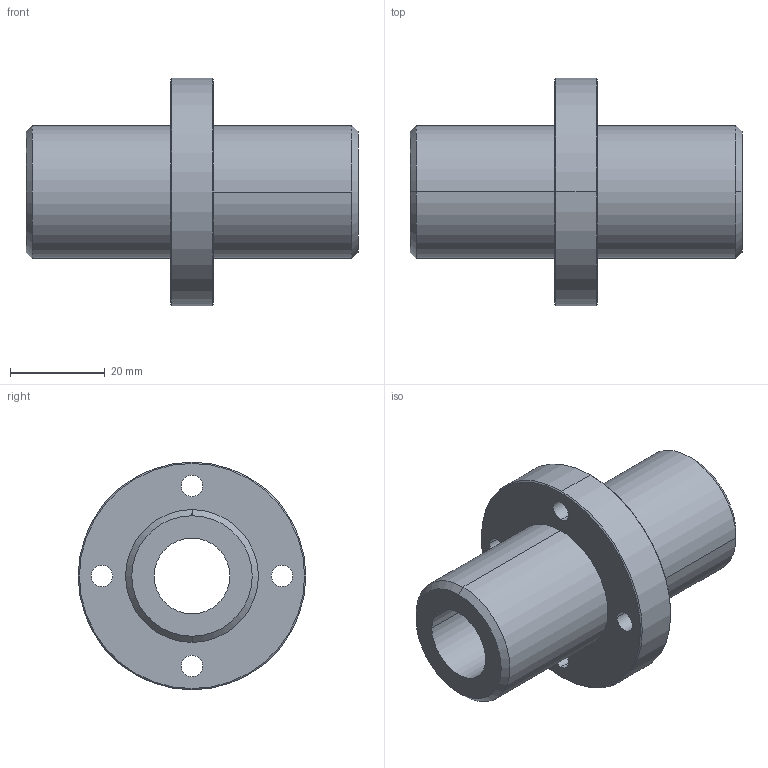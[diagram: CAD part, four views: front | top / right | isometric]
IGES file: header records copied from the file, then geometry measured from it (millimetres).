
Start section: 3D InterOp IGES (Version 21 0 1), Spatial Corp. Copyright (c) 1999-2007.
Global section: file name: CFPJR16.igs; native system: Spatial Corp.; preprocessor: 3D InterOp GENERIC/IGES 3.0; author: Noname; organization: Noname; date: 20220324.131728; units: millimetre
Bounding box: 70 x 48 x 48 mm (x, y, z)
Surface area: 13811.4 mm2 (no closed solid volume)
Topology: 0 solids, 0 shells, 40 faces, 180 edges, 180 vertices
Faces by surface type: revolution 32, extrusion 8
